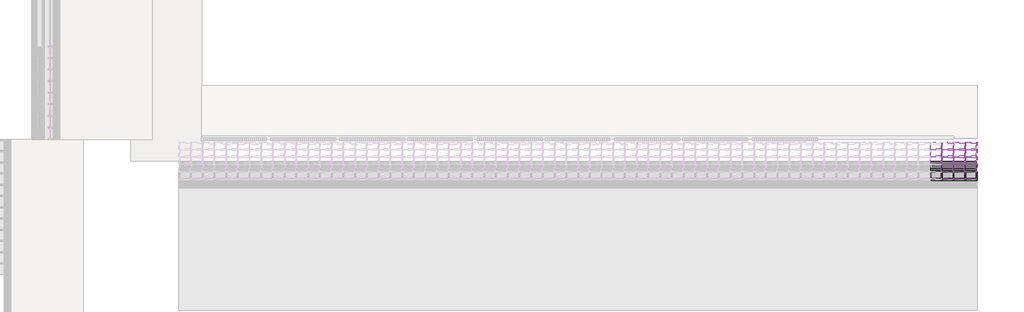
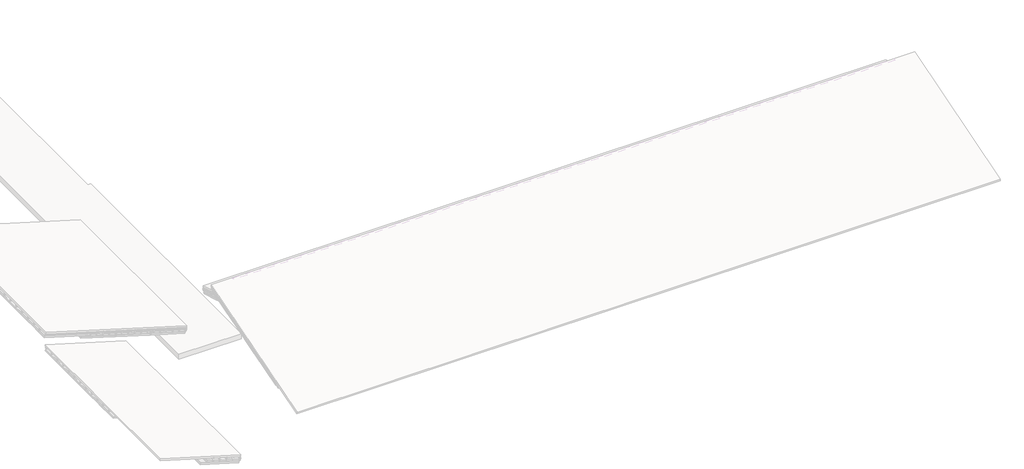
# One storey, part 54 of 57: 80 members, 40 plates.
"""IFC4 building model written with IfcOpenShell, lengths in millimetres."""

from ifc_helpers import new_model, si_unit, origin, place, context, project, spatial, transform, mapped, element, save
from components import rectangular_mullion_4c4137b9, rectangular_mullion_d5690023, rectangular_mullion_59984080, rectangular_mullion_2d2423ea, rectangular_mullion_3ac3718c, rectangular_mullion_70739a68, rectangular_mullion_38d2f0d7, rectangular_mullion_b426adaa, rectangular_mullion_caibro_df98490b, rectangular_mullion_caibro_e4384bba, rectangular_mullion_caibro_7d910be2, rectangular_mullion_caibro_0993a3cf, rectangular_mullion_caibro_9bd7bc61, rectangular_mullion_caibro_1dc24f21, rectangular_mullion_caibro_75ce8668, rectangular_mullion_caibro_650698a1, empty_system_panel_vazio_178faf58, empty_system_panel_vazio_2c78850d, empty_system_panel_vazio_0a59da35

model = new_model("IFC4")

# Units and contexts
model_context = context("Model", 3, world=origin())
ifc_project = project(units=[si_unit("LENGTHUNIT", "METRE", prefix="MILLI")], contexts=[model_context])

# Site, building, storey
site = spatial("IfcSite", under=ifc_project)
building = spatial("IfcBuilding", under=site)
storey = spatial("IfcBuildingStorey", under=building, Name="Nível 2", Elevation=4100.0)

# Members
placement = place(None, origin())
rectangular_mullion_shape = rectangular_mullion_4c4137b9(model_context)
element("IfcMember", 1, ObjectType="Rectangular Mullion : Ripa", at=placement, inside=storey, context=model_context, shape_type="MappedRepresentation", body=[
    mapped(rectangular_mullion_shape, transform((40560.2398198, 15566.1284427, 5819.8877114), x_axis=(0.0, 0.9578262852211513, 0.2873478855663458), y_axis=(0.0, 0.2873478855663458, -0.9578262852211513), z_axis=(-1.0, 0.0, 0.0))),
])
element("IfcMember", 2, ObjectType="Rectangular Mullion : Ripa", at=placement, inside=storey, context=model_context, shape_type="MappedRepresentation", body=[
    mapped(rectangular_mullion_shape, transform((41157.2945762, 15566.1284427, 5819.8877114), x_axis=(0.0, 0.9578262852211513, 0.2873478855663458), y_axis=(0.0, 0.2873478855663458, -0.9578262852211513), z_axis=(-1.0, 0.0, 0.0))),
])
rectangular_mullion_2_shape = rectangular_mullion_d5690023(model_context)
element("IfcMember", 3, ObjectType="Rectangular Mullion : Ripa", at=placement, inside=storey, context=model_context, shape_type="MappedRepresentation", body=[
    mapped(rectangular_mullion_2_shape, transform((41754.3493326, 15566.1284427, 5819.8877114), x_axis=(0.0, 0.9578262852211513, 0.2873478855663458), y_axis=(0.0, 0.2873478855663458, -0.9578262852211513), z_axis=(-1.0, 0.0, 0.0))),
])
rectangular_mullion_3_shape = rectangular_mullion_59984080(model_context)
element("IfcMember", 4, ObjectType="Rectangular Mullion : Ripa", at=placement, inside=storey, context=model_context, shape_type="MappedRepresentation", body=[
    mapped(rectangular_mullion_3_shape, transform((41182.2945762, 12234.5331147, 4820.409113), x_axis=(0.0, 0.9578262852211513, 0.2873478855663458), y_axis=(0.0, 0.2873478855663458, -0.9578262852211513), z_axis=(-1.0, 0.0, 0.0))),
])
element("IfcMember", 5, ObjectType="Rectangular Mullion : Ripa", at=placement, inside=storey, context=model_context, shape_type="MappedRepresentation", body=[
    mapped(rectangular_mullion_3_shape, transform((41779.3493326, 12234.5331147, 4820.409113), x_axis=(0.0, 0.9578262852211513, 0.2873478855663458), y_axis=(0.0, 0.2873478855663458, -0.9578262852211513), z_axis=(-1.0, 0.0, 0.0))),
])
element("IfcMember", 6, ObjectType="Rectangular Mullion : Ripa", at=placement, inside=storey, context=model_context, shape_type="MappedRepresentation", body=[
    mapped(rectangular_mullion_3_shape, transform((41182.2945762, 12604.7103734, 4931.4622906), x_axis=(0.0, 0.9578262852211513, 0.2873478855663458), y_axis=(0.0, 0.2873478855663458, -0.9578262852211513), z_axis=(-1.0, 0.0, 0.0))),
])
element("IfcMember", 7, ObjectType="Rectangular Mullion : Ripa", at=placement, inside=storey, context=model_context, shape_type="MappedRepresentation", body=[
    mapped(rectangular_mullion_3_shape, transform((41779.3493326, 12604.7103734, 4931.4622906), x_axis=(0.0, 0.9578262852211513, 0.2873478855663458), y_axis=(0.0, 0.2873478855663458, -0.9578262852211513), z_axis=(-1.0, 0.0, 0.0))),
])
element("IfcMember", 8, ObjectType="Rectangular Mullion : Ripa", at=placement, inside=storey, context=model_context, shape_type="MappedRepresentation", body=[
    mapped(rectangular_mullion_3_shape, transform((41182.2945762, 12974.8876321, 5042.5154682), x_axis=(0.0, 0.9578262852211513, 0.2873478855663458), y_axis=(0.0, 0.2873478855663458, -0.9578262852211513), z_axis=(-1.0, 0.0, 0.0))),
])
element("IfcMember", 9, ObjectType="Rectangular Mullion : Ripa", at=placement, inside=storey, context=model_context, shape_type="MappedRepresentation", body=[
    mapped(rectangular_mullion_3_shape, transform((41779.3493326, 12974.8876321, 5042.5154682), x_axis=(0.0, 0.9578262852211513, 0.2873478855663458), y_axis=(0.0, 0.2873478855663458, -0.9578262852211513), z_axis=(-1.0, 0.0, 0.0))),
])
element("IfcMember", 10, ObjectType="Rectangular Mullion : Ripa", at=placement, inside=storey, context=model_context, shape_type="MappedRepresentation", body=[
    mapped(rectangular_mullion_3_shape, transform((40585.2398198, 13345.0648907, 5153.5686458), x_axis=(0.0, 0.9578262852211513, 0.2873478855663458), y_axis=(0.0, 0.2873478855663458, -0.9578262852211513), z_axis=(-1.0, 0.0, 0.0))),
])
element("IfcMember", 11, ObjectType="Rectangular Mullion : Ripa", at=placement, inside=storey, context=model_context, shape_type="MappedRepresentation", body=[
    mapped(rectangular_mullion_3_shape, transform((41182.2945762, 13345.0648907, 5153.5686458), x_axis=(0.0, 0.9578262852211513, 0.2873478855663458), y_axis=(0.0, 0.2873478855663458, -0.9578262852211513), z_axis=(-1.0, 0.0, 0.0))),
])
element("IfcMember", 12, ObjectType="Rectangular Mullion : Ripa", at=placement, inside=storey, context=model_context, shape_type="MappedRepresentation", body=[
    mapped(rectangular_mullion_3_shape, transform((41779.3493326, 13345.0648907, 5153.5686458), x_axis=(0.0, 0.9578262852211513, 0.2873478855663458), y_axis=(0.0, 0.2873478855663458, -0.9578262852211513), z_axis=(-1.0, 0.0, 0.0))),
])
element("IfcMember", 13, ObjectType="Rectangular Mullion : Ripa", at=placement, inside=storey, context=model_context, shape_type="MappedRepresentation", body=[
    mapped(rectangular_mullion_3_shape, transform((40585.2398198, 13715.2421494, 5264.6218234), x_axis=(0.0, 0.9578262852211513, 0.2873478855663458), y_axis=(0.0, 0.2873478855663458, -0.9578262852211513), z_axis=(-1.0, 0.0, 0.0))),
])
element("IfcMember", 14, ObjectType="Rectangular Mullion : Ripa", at=placement, inside=storey, context=model_context, shape_type="MappedRepresentation", body=[
    mapped(rectangular_mullion_3_shape, transform((41182.2945762, 13715.2421494, 5264.6218234), x_axis=(0.0, 0.9578262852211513, 0.2873478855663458), y_axis=(0.0, 0.2873478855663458, -0.9578262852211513), z_axis=(-1.0, 0.0, 0.0))),
])
element("IfcMember", 15, ObjectType="Rectangular Mullion : Ripa", at=placement, inside=storey, context=model_context, shape_type="MappedRepresentation", body=[
    mapped(rectangular_mullion_3_shape, transform((41779.3493326, 13715.2421494, 5264.6218234), x_axis=(0.0, 0.9578262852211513, 0.2873478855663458), y_axis=(0.0, 0.2873478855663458, -0.9578262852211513), z_axis=(-1.0, 0.0, 0.0))),
])
element("IfcMember", 16, ObjectType="Rectangular Mullion : Ripa", at=placement, inside=storey, context=model_context, shape_type="MappedRepresentation", body=[
    mapped(rectangular_mullion_3_shape, transform((40585.2398198, 14085.4194081, 5375.675001), x_axis=(0.0, 0.9578262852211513, 0.2873478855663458), y_axis=(0.0, 0.2873478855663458, -0.9578262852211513), z_axis=(-1.0, 0.0, 0.0))),
])
element("IfcMember", 17, ObjectType="Rectangular Mullion : Ripa", at=placement, inside=storey, context=model_context, shape_type="MappedRepresentation", body=[
    mapped(rectangular_mullion_3_shape, transform((41182.2945762, 14085.4194081, 5375.675001), x_axis=(0.0, 0.9578262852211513, 0.2873478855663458), y_axis=(0.0, 0.2873478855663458, -0.9578262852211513), z_axis=(-1.0, 0.0, 0.0))),
])
element("IfcMember", 18, ObjectType="Rectangular Mullion : Ripa", at=placement, inside=storey, context=model_context, shape_type="MappedRepresentation", body=[
    mapped(rectangular_mullion_3_shape, transform((41779.3493326, 14085.4194081, 5375.675001), x_axis=(0.0, 0.9578262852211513, 0.2873478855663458), y_axis=(0.0, 0.2873478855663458, -0.9578262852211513), z_axis=(-1.0, 0.0, 0.0))),
])
element("IfcMember", 19, ObjectType="Rectangular Mullion : Ripa", at=placement, inside=storey, context=model_context, shape_type="MappedRepresentation", body=[
    mapped(rectangular_mullion_3_shape, transform((40585.2398198, 14455.5966667, 5486.7281786), x_axis=(0.0, 0.9578262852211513, 0.2873478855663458), y_axis=(0.0, 0.2873478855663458, -0.9578262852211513), z_axis=(-1.0, 0.0, 0.0))),
])
element("IfcMember", 20, ObjectType="Rectangular Mullion : Ripa", at=placement, inside=storey, context=model_context, shape_type="MappedRepresentation", body=[
    mapped(rectangular_mullion_3_shape, transform((41182.2945762, 14455.5966667, 5486.7281786), x_axis=(0.0, 0.9578262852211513, 0.2873478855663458), y_axis=(0.0, 0.2873478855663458, -0.9578262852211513), z_axis=(-1.0, 0.0, 0.0))),
])
element("IfcMember", 21, ObjectType="Rectangular Mullion : Ripa", at=placement, inside=storey, context=model_context, shape_type="MappedRepresentation", body=[
    mapped(rectangular_mullion_3_shape, transform((41779.3493326, 14455.5966667, 5486.7281786), x_axis=(0.0, 0.9578262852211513, 0.2873478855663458), y_axis=(0.0, 0.2873478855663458, -0.9578262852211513), z_axis=(-1.0, 0.0, 0.0))),
])
element("IfcMember", 22, ObjectType="Rectangular Mullion : Ripa", at=placement, inside=storey, context=model_context, shape_type="MappedRepresentation", body=[
    mapped(rectangular_mullion_3_shape, transform((40585.2398198, 14825.7739254, 5597.7813562), x_axis=(0.0, 0.9578262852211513, 0.2873478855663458), y_axis=(0.0, 0.2873478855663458, -0.9578262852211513), z_axis=(-1.0, 0.0, 0.0))),
])
element("IfcMember", 23, ObjectType="Rectangular Mullion : Ripa", at=placement, inside=storey, context=model_context, shape_type="MappedRepresentation", body=[
    mapped(rectangular_mullion_3_shape, transform((41182.2945762, 14825.7739254, 5597.7813562), x_axis=(0.0, 0.9578262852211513, 0.2873478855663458), y_axis=(0.0, 0.2873478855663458, -0.9578262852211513), z_axis=(-1.0, 0.0, 0.0))),
])
element("IfcMember", 24, ObjectType="Rectangular Mullion : Ripa", at=placement, inside=storey, context=model_context, shape_type="MappedRepresentation", body=[
    mapped(rectangular_mullion_3_shape, transform((41779.3493326, 14825.7739254, 5597.7813562), x_axis=(0.0, 0.9578262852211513, 0.2873478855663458), y_axis=(0.0, 0.2873478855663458, -0.9578262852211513), z_axis=(-1.0, 0.0, 0.0))),
])
element("IfcMember", 25, ObjectType="Rectangular Mullion : Ripa", at=placement, inside=storey, context=model_context, shape_type="MappedRepresentation", body=[
    mapped(rectangular_mullion_3_shape, transform((40585.2398198, 15195.9511841, 5708.8345338), x_axis=(0.0, 0.9578262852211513, 0.2873478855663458), y_axis=(0.0, 0.2873478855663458, -0.9578262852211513), z_axis=(-1.0, 0.0, 0.0))),
])
element("IfcMember", 26, ObjectType="Rectangular Mullion : Ripa", at=placement, inside=storey, context=model_context, shape_type="MappedRepresentation", body=[
    mapped(rectangular_mullion_3_shape, transform((41182.2945762, 15195.9511841, 5708.8345338), x_axis=(0.0, 0.9578262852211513, 0.2873478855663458), y_axis=(0.0, 0.2873478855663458, -0.9578262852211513), z_axis=(-1.0, 0.0, 0.0))),
])
element("IfcMember", 27, ObjectType="Rectangular Mullion : Ripa", at=placement, inside=storey, context=model_context, shape_type="MappedRepresentation", body=[
    mapped(rectangular_mullion_3_shape, transform((41779.3493326, 15195.9511841, 5708.8345338), x_axis=(0.0, 0.9578262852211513, 0.2873478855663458), y_axis=(0.0, 0.2873478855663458, -0.9578262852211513), z_axis=(-1.0, 0.0, 0.0))),
])
rectangular_mullion_4_shape = rectangular_mullion_2d2423ea(model_context)
element("IfcMember", 28, ObjectType="Rectangular Mullion : Terça", at=placement, inside=storey, context=model_context, shape_type="MappedRepresentation", body=[
    mapped(rectangular_mullion_4_shape, transform((40585.2398198, 13411.2689826, 5110.7880343), x_axis=(0.0, 0.9578262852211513, 0.2873478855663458), y_axis=(0.0, 0.2873478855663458, -0.9578262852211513), z_axis=(-1.0, 0.0, 0.0))),
])
element("IfcMember", 29, ObjectType="Rectangular Mullion : Terça", at=placement, inside=storey, context=model_context, shape_type="MappedRepresentation", body=[
    mapped(rectangular_mullion_4_shape, transform((41182.2945762, 13411.2689826, 5110.7880343), x_axis=(0.0, 0.9578262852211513, 0.2873478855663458), y_axis=(0.0, 0.2873478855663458, -0.9578262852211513), z_axis=(-1.0, 0.0, 0.0))),
])
element("IfcMember", 30, ObjectType="Rectangular Mullion : Terça", at=placement, inside=storey, context=model_context, shape_type="MappedRepresentation", body=[
    mapped(rectangular_mullion_4_shape, transform((41779.3493326, 13411.2689826, 5110.7880343), x_axis=(0.0, 0.9578262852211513, 0.2873478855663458), y_axis=(0.0, 0.2873478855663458, -0.9578262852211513), z_axis=(-1.0, 0.0, 0.0))),
])
rectangular_mullion_5_shape = rectangular_mullion_3ac3718c(model_context)
element("IfcMember", 31, ObjectType="Rectangular Mullion : Terça", at=placement, inside=storey, context=model_context, shape_type="MappedRepresentation", body=[
    mapped(rectangular_mullion_5_shape, transform((40560.2398198, 15566.1284427, 5757.2458723), x_axis=(0.0, 0.9578262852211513, 0.2873478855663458), y_axis=(0.0, 0.2873478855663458, -0.9578262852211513), z_axis=(-1.0, 0.0, 0.0))),
])
element("IfcMember", 32, ObjectType="Rectangular Mullion : Terça", at=placement, inside=storey, context=model_context, shape_type="MappedRepresentation", body=[
    mapped(rectangular_mullion_5_shape, transform((41157.2945762, 15566.1284427, 5757.2458723), x_axis=(0.0, 0.9578262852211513, 0.2873478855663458), y_axis=(0.0, 0.2873478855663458, -0.9578262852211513), z_axis=(-1.0, 0.0, 0.0))),
])
rectangular_mullion_6_shape = rectangular_mullion_70739a68(model_context)
element("IfcMember", 33, ObjectType="Rectangular Mullion : Terça", at=placement, inside=storey, context=model_context, shape_type="MappedRepresentation", body=[
    mapped(rectangular_mullion_6_shape, transform((41754.3493326, 15566.1284427, 5757.2458723), x_axis=(0.0, 0.9578262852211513, 0.2873478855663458), y_axis=(0.0, 0.2873478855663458, -0.9578262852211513), z_axis=(-1.0, 0.0, 0.0))),
])
rectangular_mullion_7_shape = rectangular_mullion_38d2f0d7(model_context)
element("IfcMember", 34, ObjectType="Rectangular Mullion : Ripa", at=placement, inside=storey, context=model_context, shape_type="MappedRepresentation", body=[
    mapped(rectangular_mullion_7_shape, transform((42376.5296631, 15772.0058221, 4410.7541277), x_axis=(0.0, -0.9578262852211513, 0.2873478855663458), y_axis=(0.0, -0.2873478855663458, -0.9578262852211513), z_axis=(1.0, 0.0, 0.0))),
])
rectangular_mullion_8_shape = rectangular_mullion_b426adaa(model_context)
element("IfcMember", 35, ObjectType="Rectangular Mullion : Terça", at=placement, inside=storey, context=model_context, shape_type="MappedRepresentation", body=[
    mapped(rectangular_mullion_8_shape, transform((42376.5296631, 15772.0058221, 4288.3581609), x_axis=(0.0, -0.9578262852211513, 0.2873478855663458), y_axis=(0.0, -0.2873478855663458, -0.9578262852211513), z_axis=(1.0, 0.0, 0.0))),
])
rectangular_mullion_caibro_shape = rectangular_mullion_caibro_df98490b(model_context)
element("IfcMember", 36, ObjectType="Rectangular Mullion : Caibro", at=placement, inside=storey, context=model_context, shape_type="MappedRepresentation", body=[
    mapped(rectangular_mullion_caibro_shape, transform((40560.2398198, 15518.2371285, 5805.5203171), x_axis=(1.0, 0.0, 0.0), y_axis=(0.0, 0.28734788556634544, -0.9578262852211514), z_axis=(0.0, 0.9578262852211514, 0.28734788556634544))),
])
element("IfcMember", 37, ObjectType="Rectangular Mullion : Caibro", at=placement, inside=storey, context=model_context, shape_type="MappedRepresentation", body=[
    mapped(rectangular_mullion_caibro_shape, transform((41157.2945762, 15518.2371285, 5805.5203171), x_axis=(1.0, 0.0, 0.0), y_axis=(0.0, 0.28734788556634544, -0.9578262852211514), z_axis=(0.0, 0.9578262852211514, 0.28734788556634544))),
])
element("IfcMember", 38, ObjectType="Rectangular Mullion : Caibro", at=placement, inside=storey, context=model_context, shape_type="MappedRepresentation", body=[
    mapped(rectangular_mullion_caibro_shape, transform((41754.3493326, 15518.2371285, 5805.5203171), x_axis=(1.0, 0.0, 0.0), y_axis=(0.0, 0.28734788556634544, -0.9578262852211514), z_axis=(0.0, 0.9578262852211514, 0.28734788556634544))),
])
rectangular_mullion_caibro_2_shape = rectangular_mullion_caibro_e4384bba(model_context)
element("IfcMember", 39, ObjectType="Rectangular Mullion : Caibro", at=placement, inside=storey, context=model_context, shape_type="MappedRepresentation", body=[
    mapped(rectangular_mullion_caibro_2_shape, transform((40560.2398198, 13345.0648907, 5153.5686458), x_axis=(1.0, 0.0, 0.0), y_axis=(0.0, 0.28734788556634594, -0.9578262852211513), z_axis=(0.0, 0.9578262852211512, 0.2873478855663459))),
])
element("IfcMember", 40, ObjectType="Rectangular Mullion : Caibro", at=placement, inside=storey, context=model_context, shape_type="MappedRepresentation", body=[
    mapped(rectangular_mullion_caibro_2_shape, transform((40560.2398198, 13715.2421494, 5264.6218234), x_axis=(1.0, 0.0, 0.0), y_axis=(0.0, 0.28734788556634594, -0.9578262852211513), z_axis=(0.0, 0.9578262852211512, 0.2873478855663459))),
])
element("IfcMember", 41, ObjectType="Rectangular Mullion : Caibro", at=placement, inside=storey, context=model_context, shape_type="MappedRepresentation", body=[
    mapped(rectangular_mullion_caibro_2_shape, transform((40560.2398198, 14085.4194081, 5375.675001), x_axis=(1.0, 0.0, 0.0), y_axis=(0.0, 0.28734788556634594, -0.9578262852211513), z_axis=(0.0, 0.9578262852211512, 0.2873478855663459))),
])
element("IfcMember", 42, ObjectType="Rectangular Mullion : Caibro", at=placement, inside=storey, context=model_context, shape_type="MappedRepresentation", body=[
    mapped(rectangular_mullion_caibro_2_shape, transform((40560.2398198, 14455.5966667, 5486.7281786), x_axis=(1.0, 0.0, 0.0), y_axis=(0.0, 0.2873478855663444, -0.9578262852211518), z_axis=(0.0, 0.9578262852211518, 0.2873478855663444))),
])
element("IfcMember", 43, ObjectType="Rectangular Mullion : Caibro", at=placement, inside=storey, context=model_context, shape_type="MappedRepresentation", body=[
    mapped(rectangular_mullion_caibro_2_shape, transform((40560.2398198, 14825.7739254, 5597.7813562), x_axis=(1.0, 0.0, 0.0), y_axis=(0.0, 0.287347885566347, -0.9578262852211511), z_axis=(0.0, 0.9578262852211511, 0.287347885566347))),
])
element("IfcMember", 44, ObjectType="Rectangular Mullion : Caibro", at=placement, inside=storey, context=model_context, shape_type="MappedRepresentation", body=[
    mapped(rectangular_mullion_caibro_2_shape, transform((40560.2398198, 15195.9511841, 5708.8345338), x_axis=(1.0, 0.0, 0.0), y_axis=(0.0, 0.28734788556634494, -0.9578262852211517), z_axis=(0.0, 0.9578262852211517, 0.28734788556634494))),
])
element("IfcMember", 45, ObjectType="Rectangular Mullion : Caibro", at=placement, inside=storey, context=model_context, shape_type="MappedRepresentation", body=[
    mapped(rectangular_mullion_caibro_2_shape, transform((41157.2945762, 13345.0648907, 5153.5686458), x_axis=(1.0, 0.0, 0.0), y_axis=(0.0, 0.28734788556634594, -0.9578262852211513), z_axis=(0.0, 0.9578262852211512, 0.2873478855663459))),
])
element("IfcMember", 46, ObjectType="Rectangular Mullion : Caibro", at=placement, inside=storey, context=model_context, shape_type="MappedRepresentation", body=[
    mapped(rectangular_mullion_caibro_2_shape, transform((41157.2945762, 13715.2421494, 5264.6218234), x_axis=(1.0, 0.0, 0.0), y_axis=(0.0, 0.28734788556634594, -0.9578262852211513), z_axis=(0.0, 0.9578262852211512, 0.2873478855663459))),
])
element("IfcMember", 47, ObjectType="Rectangular Mullion : Caibro", at=placement, inside=storey, context=model_context, shape_type="MappedRepresentation", body=[
    mapped(rectangular_mullion_caibro_2_shape, transform((41157.2945762, 14085.4194081, 5375.675001), x_axis=(1.0, 0.0, 0.0), y_axis=(0.0, 0.28734788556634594, -0.9578262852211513), z_axis=(0.0, 0.9578262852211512, 0.2873478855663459))),
])
element("IfcMember", 48, ObjectType="Rectangular Mullion : Caibro", at=placement, inside=storey, context=model_context, shape_type="MappedRepresentation", body=[
    mapped(rectangular_mullion_caibro_2_shape, transform((41157.2945762, 14455.5966667, 5486.7281786), x_axis=(1.0, 0.0, 0.0), y_axis=(0.0, 0.2873478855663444, -0.9578262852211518), z_axis=(0.0, 0.9578262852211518, 0.2873478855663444))),
])
element("IfcMember", 49, ObjectType="Rectangular Mullion : Caibro", at=placement, inside=storey, context=model_context, shape_type="MappedRepresentation", body=[
    mapped(rectangular_mullion_caibro_2_shape, transform((41157.2945762, 14825.7739254, 5597.7813562), x_axis=(1.0, 0.0, 0.0), y_axis=(0.0, 0.287347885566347, -0.9578262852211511), z_axis=(0.0, 0.9578262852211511, 0.287347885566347))),
])
element("IfcMember", 50, ObjectType="Rectangular Mullion : Caibro", at=placement, inside=storey, context=model_context, shape_type="MappedRepresentation", body=[
    mapped(rectangular_mullion_caibro_2_shape, transform((41157.2945762, 15195.9511841, 5708.8345338), x_axis=(1.0, 0.0, 0.0), y_axis=(0.0, 0.28734788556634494, -0.9578262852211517), z_axis=(0.0, 0.9578262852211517, 0.28734788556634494))),
])
element("IfcMember", 51, ObjectType="Rectangular Mullion : Caibro", at=placement, inside=storey, context=model_context, shape_type="MappedRepresentation", body=[
    mapped(rectangular_mullion_caibro_2_shape, transform((41754.3493326, 12234.5331147, 4820.409113), x_axis=(1.0, 0.0, 0.0), y_axis=(0.0, 0.2873478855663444, -0.9578262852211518), z_axis=(0.0, 0.9578262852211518, 0.2873478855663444))),
])
element("IfcMember", 52, ObjectType="Rectangular Mullion : Caibro", at=placement, inside=storey, context=model_context, shape_type="MappedRepresentation", body=[
    mapped(rectangular_mullion_caibro_2_shape, transform((41754.3493326, 12604.7103734, 4931.4622906), x_axis=(1.0, 0.0, 0.0), y_axis=(0.0, 0.2873478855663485, -0.9578262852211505), z_axis=(0.0, 0.9578262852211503, 0.28734788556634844))),
])
element("IfcMember", 53, ObjectType="Rectangular Mullion : Caibro", at=placement, inside=storey, context=model_context, shape_type="MappedRepresentation", body=[
    mapped(rectangular_mullion_caibro_2_shape, transform((41754.3493326, 12974.8876321, 5042.5154682), x_axis=(1.0, 0.0, 0.0), y_axis=(0.0, 0.2873478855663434, -0.957826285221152), z_axis=(0.0, 0.957826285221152, 0.2873478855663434))),
])
element("IfcMember", 54, ObjectType="Rectangular Mullion : Caibro", at=placement, inside=storey, context=model_context, shape_type="MappedRepresentation", body=[
    mapped(rectangular_mullion_caibro_2_shape, transform((41754.3493326, 13345.0648907, 5153.5686458), x_axis=(1.0, 0.0, 0.0), y_axis=(0.0, 0.28734788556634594, -0.9578262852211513), z_axis=(0.0, 0.9578262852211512, 0.2873478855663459))),
])
element("IfcMember", 55, ObjectType="Rectangular Mullion : Caibro", at=placement, inside=storey, context=model_context, shape_type="MappedRepresentation", body=[
    mapped(rectangular_mullion_caibro_2_shape, transform((41754.3493326, 13715.2421494, 5264.6218234), x_axis=(1.0, 0.0, 0.0), y_axis=(0.0, 0.28734788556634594, -0.9578262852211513), z_axis=(0.0, 0.9578262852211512, 0.2873478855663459))),
])
element("IfcMember", 56, ObjectType="Rectangular Mullion : Caibro", at=placement, inside=storey, context=model_context, shape_type="MappedRepresentation", body=[
    mapped(rectangular_mullion_caibro_2_shape, transform((41754.3493326, 14085.4194081, 5375.675001), x_axis=(1.0, 0.0, 0.0), y_axis=(0.0, 0.28734788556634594, -0.9578262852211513), z_axis=(0.0, 0.9578262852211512, 0.2873478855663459))),
])
element("IfcMember", 57, ObjectType="Rectangular Mullion : Caibro", at=placement, inside=storey, context=model_context, shape_type="MappedRepresentation", body=[
    mapped(rectangular_mullion_caibro_2_shape, transform((41754.3493326, 14455.5966667, 5486.7281786), x_axis=(1.0, 0.0, 0.0), y_axis=(0.0, 0.2873478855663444, -0.9578262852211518), z_axis=(0.0, 0.9578262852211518, 0.2873478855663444))),
])
element("IfcMember", 58, ObjectType="Rectangular Mullion : Caibro", at=placement, inside=storey, context=model_context, shape_type="MappedRepresentation", body=[
    mapped(rectangular_mullion_caibro_2_shape, transform((41754.3493326, 14825.7739254, 5597.7813562), x_axis=(1.0, 0.0, 0.0), y_axis=(0.0, 0.287347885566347, -0.9578262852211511), z_axis=(0.0, 0.9578262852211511, 0.287347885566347))),
])
element("IfcMember", 59, ObjectType="Rectangular Mullion : Caibro", at=placement, inside=storey, context=model_context, shape_type="MappedRepresentation", body=[
    mapped(rectangular_mullion_caibro_2_shape, transform((41754.3493326, 15195.9511841, 5708.8345338), x_axis=(1.0, 0.0, 0.0), y_axis=(0.0, 0.28734788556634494, -0.9578262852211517), z_axis=(0.0, 0.9578262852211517, 0.28734788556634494))),
])
rectangular_mullion_caibro_3_shape = rectangular_mullion_caibro_7d910be2(model_context)
element("IfcMember", 60, ObjectType="Rectangular Mullion : Caibro", at=placement, inside=storey, context=model_context, shape_type="MappedRepresentation", body=[
    mapped(rectangular_mullion_caibro_3_shape, transform((42376.4040894, 15566.1284427, 5819.8877114), x_axis=(1.0, 0.0, 0.0), y_axis=(0.0, 0.28734788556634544, -0.9578262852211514), z_axis=(0.0, 0.9578262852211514, 0.28734788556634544))),
])
element("IfcMember", 61, ObjectType="Rectangular Mullion : Caibro", at=placement, inside=storey, context=model_context, shape_type="MappedRepresentation", body=[
    mapped(rectangular_mullion_caibro_3_shape, transform((42376.4040894, 12234.5331147, 4820.409113), x_axis=(1.0, 0.0, 0.0), y_axis=(0.0, 0.2873478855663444, -0.9578262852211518), z_axis=(0.0, 0.9578262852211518, 0.2873478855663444))),
])
element("IfcMember", 62, ObjectType="Rectangular Mullion : Caibro", at=placement, inside=storey, context=model_context, shape_type="MappedRepresentation", body=[
    mapped(rectangular_mullion_caibro_3_shape, transform((42376.4040894, 12604.7103734, 4931.4622906), x_axis=(1.0, 0.0, 0.0), y_axis=(0.0, 0.2873478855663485, -0.9578262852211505), z_axis=(0.0, 0.9578262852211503, 0.28734788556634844))),
])
element("IfcMember", 63, ObjectType="Rectangular Mullion : Caibro", at=placement, inside=storey, context=model_context, shape_type="MappedRepresentation", body=[
    mapped(rectangular_mullion_caibro_3_shape, transform((42376.4040894, 12974.8876321, 5042.5154682), x_axis=(1.0, 0.0, 0.0), y_axis=(0.0, 0.2873478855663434, -0.957826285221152), z_axis=(0.0, 0.957826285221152, 0.2873478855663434))),
])
element("IfcMember", 64, ObjectType="Rectangular Mullion : Caibro", at=placement, inside=storey, context=model_context, shape_type="MappedRepresentation", body=[
    mapped(rectangular_mullion_caibro_3_shape, transform((42376.4040894, 13345.0648907, 5153.5686458), x_axis=(1.0, 0.0, 0.0), y_axis=(0.0, 0.28734788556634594, -0.9578262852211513), z_axis=(0.0, 0.9578262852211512, 0.2873478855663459))),
])
element("IfcMember", 65, ObjectType="Rectangular Mullion : Caibro", at=placement, inside=storey, context=model_context, shape_type="MappedRepresentation", body=[
    mapped(rectangular_mullion_caibro_3_shape, transform((42376.4040894, 13715.2421494, 5264.6218234), x_axis=(1.0, 0.0, 0.0), y_axis=(0.0, 0.28734788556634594, -0.9578262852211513), z_axis=(0.0, 0.9578262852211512, 0.2873478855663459))),
])
element("IfcMember", 66, ObjectType="Rectangular Mullion : Caibro", at=placement, inside=storey, context=model_context, shape_type="MappedRepresentation", body=[
    mapped(rectangular_mullion_caibro_3_shape, transform((42376.4040894, 14085.4194081, 5375.675001), x_axis=(1.0, 0.0, 0.0), y_axis=(0.0, 0.28734788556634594, -0.9578262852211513), z_axis=(0.0, 0.9578262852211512, 0.2873478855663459))),
])
element("IfcMember", 67, ObjectType="Rectangular Mullion : Caibro", at=placement, inside=storey, context=model_context, shape_type="MappedRepresentation", body=[
    mapped(rectangular_mullion_caibro_3_shape, transform((42376.4040894, 14455.5966667, 5486.7281786), x_axis=(1.0, 0.0, 0.0), y_axis=(0.0, 0.2873478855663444, -0.9578262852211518), z_axis=(0.0, 0.9578262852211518, 0.2873478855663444))),
])
element("IfcMember", 68, ObjectType="Rectangular Mullion : Caibro", at=placement, inside=storey, context=model_context, shape_type="MappedRepresentation", body=[
    mapped(rectangular_mullion_caibro_3_shape, transform((42376.4040894, 14825.7739254, 5597.7813562), x_axis=(1.0, 0.0, 0.0), y_axis=(0.0, 0.287347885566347, -0.9578262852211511), z_axis=(0.0, 0.9578262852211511, 0.287347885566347))),
])
element("IfcMember", 69, ObjectType="Rectangular Mullion : Caibro", at=placement, inside=storey, context=model_context, shape_type="MappedRepresentation", body=[
    mapped(rectangular_mullion_caibro_3_shape, transform((42376.4040894, 15195.9511841, 5708.8345338), x_axis=(1.0, 0.0, 0.0), y_axis=(0.0, 0.28734788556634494, -0.9578262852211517), z_axis=(0.0, 0.9578262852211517, 0.28734788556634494))),
])
rectangular_mullion_caibro_4_shape = rectangular_mullion_caibro_0993a3cf(model_context)
element("IfcMember", 70, ObjectType="Rectangular Mullion : Caibro", at=placement, inside=storey, context=model_context, shape_type="MappedRepresentation", body=[
    mapped(rectangular_mullion_caibro_4_shape, transform((40560.2398198, 15508.6588656, 5740.0049992), x_axis=(1.0, 0.0, 0.0), y_axis=(0.0, 0.28734788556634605, -0.9578262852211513), z_axis=(0.0, 0.9578262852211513, 0.28734788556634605))),
])
element("IfcMember", 71, ObjectType="Rectangular Mullion : Caibro", at=placement, inside=storey, context=model_context, shape_type="MappedRepresentation", body=[
    mapped(rectangular_mullion_caibro_4_shape, transform((41157.2945762, 15508.6588656, 5740.0049992), x_axis=(1.0, 0.0, 0.0), y_axis=(0.0, 0.28734788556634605, -0.9578262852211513), z_axis=(0.0, 0.9578262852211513, 0.28734788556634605))),
])
element("IfcMember", 72, ObjectType="Rectangular Mullion : Caibro", at=placement, inside=storey, context=model_context, shape_type="MappedRepresentation", body=[
    mapped(rectangular_mullion_caibro_4_shape, transform((41754.3493326, 15508.6588656, 5740.0049992), x_axis=(1.0, 0.0, 0.0), y_axis=(0.0, 0.28734788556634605, -0.9578262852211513), z_axis=(0.0, 0.9578262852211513, 0.28734788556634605))),
])
rectangular_mullion_caibro_5_shape = rectangular_mullion_caibro_9bd7bc61(model_context)
element("IfcMember", 73, ObjectType="Rectangular Mullion : Caibro", at=placement, inside=storey, context=model_context, shape_type="MappedRepresentation", body=[
    mapped(rectangular_mullion_caibro_5_shape, transform((40560.2398198, 13411.2689826, 5110.7880343), x_axis=(1.0, 0.0, 0.0), y_axis=(0.0, 0.2873478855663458, -0.9578262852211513), z_axis=(0.0, 0.9578262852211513, 0.2873478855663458))),
])
element("IfcMember", 74, ObjectType="Rectangular Mullion : Caibro", at=placement, inside=storey, context=model_context, shape_type="MappedRepresentation", body=[
    mapped(rectangular_mullion_caibro_5_shape, transform((41157.2945762, 13411.2689826, 5110.7880343), x_axis=(1.0, 0.0, 0.0), y_axis=(0.0, 0.2873478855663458, -0.9578262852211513), z_axis=(0.0, 0.9578262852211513, 0.2873478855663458))),
])
element("IfcMember", 75, ObjectType="Rectangular Mullion : Caibro", at=placement, inside=storey, context=model_context, shape_type="MappedRepresentation", body=[
    mapped(rectangular_mullion_caibro_5_shape, transform((41754.3493326, 13411.2689826, 5110.7880343), x_axis=(1.0, 0.0, 0.0), y_axis=(0.0, 0.2873478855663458, -0.9578262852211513), z_axis=(0.0, 0.9578262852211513, 0.2873478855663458))),
])
rectangular_mullion_caibro_6_shape = rectangular_mullion_caibro_1dc24f21(model_context)
element("IfcMember", 76, ObjectType="Rectangular Mullion : Caibro", at=placement, inside=storey, context=model_context, shape_type="MappedRepresentation", body=[
    mapped(rectangular_mullion_caibro_6_shape, transform((42376.4040894, 15566.1284427, 5757.2458723), x_axis=(1.0, 0.0, 0.0), y_axis=(0.0, 0.28734788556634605, -0.9578262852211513), z_axis=(0.0, 0.9578262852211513, 0.28734788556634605))),
])
rectangular_mullion_caibro_7_shape = rectangular_mullion_caibro_75ce8668(model_context)
element("IfcMember", 77, ObjectType="Rectangular Mullion : Caibro", at=placement, inside=storey, context=model_context, shape_type="MappedRepresentation", body=[
    mapped(rectangular_mullion_caibro_7_shape, transform((42376.4040894, 13411.2689826, 5110.7880343), x_axis=(1.0, 0.0, 0.0), y_axis=(0.0, 0.2873478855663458, -0.9578262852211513), z_axis=(0.0, 0.9578262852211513, 0.2873478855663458))),
])
rectangular_mullion_caibro_8_shape = rectangular_mullion_caibro_650698a1(model_context)
element("IfcMember", 78, ObjectType="Rectangular Mullion : Caibro", at=placement, inside=storey, context=model_context, shape_type="MappedRepresentation", body=[
    mapped(rectangular_mullion_caibro_8_shape, transform((41754.1811611, 15772.0058221, 4410.7541277), x_axis=(-1.0, 0.0, 0.0), y_axis=(0.0, -0.28734788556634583, -0.9578262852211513), z_axis=(0.0, -0.9578262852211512, 0.2873478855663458))),
])
element("IfcMember", 79, ObjectType="Rectangular Mullion : Caibro", at=placement, inside=storey, context=model_context, shape_type="MappedRepresentation", body=[
    mapped(rectangular_mullion_caibro_8_shape, transform((41156.8326594, 15772.0058221, 4410.7541277), x_axis=(-1.0, 0.0, 0.0), y_axis=(0.0, -0.28734788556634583, -0.9578262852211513), z_axis=(0.0, -0.9578262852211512, 0.2873478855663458))),
])
element("IfcMember", 80, ObjectType="Rectangular Mullion : Caibro", at=placement, inside=storey, context=model_context, shape_type="MappedRepresentation", body=[
    mapped(rectangular_mullion_caibro_8_shape, transform((40559.4841578, 15772.0058221, 4410.7541277), x_axis=(-1.0, 0.0, 0.0), y_axis=(0.0, -0.28734788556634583, -0.9578262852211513), z_axis=(0.0, -0.9578262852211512, 0.2873478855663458))),
])

# Plates
empty_system_panel_vazio_shape = empty_system_panel_vazio_178faf58(model_context)
element("IfcPlate", 81, ObjectType="Empty System Panel : Vazio", at=placement, inside=storey, context=model_context, shape_type="MappedRepresentation", body=[
    mapped(empty_system_panel_vazio_shape, transform((42052.876711, 12234.5331147, 4820.409113), x_axis=(1.0, 0.0, 0.0), y_axis=(0.0, 0.2873478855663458, -0.9578262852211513), z_axis=(0.0, 0.9578262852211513, 0.2873478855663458))),
])
element("IfcPlate", 82, ObjectType="Empty System Panel : Vazio", at=placement, inside=storey, context=model_context, shape_type="MappedRepresentation", body=[
    mapped(empty_system_panel_vazio_shape, transform((42052.876711, 12604.7103734, 4931.4622906), x_axis=(1.0, 0.0, 0.0), y_axis=(0.0, 0.2873478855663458, -0.9578262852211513), z_axis=(0.0, 0.9578262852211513, 0.2873478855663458))),
])
element("IfcPlate", 83, ObjectType="Empty System Panel : Vazio", at=placement, inside=storey, context=model_context, shape_type="MappedRepresentation", body=[
    mapped(empty_system_panel_vazio_shape, transform((42052.876711, 12974.8876321, 5042.5154682), x_axis=(1.0, 0.0, 0.0), y_axis=(0.0, 0.2873478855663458, -0.9578262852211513), z_axis=(0.0, 0.9578262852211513, 0.2873478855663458))),
])
element("IfcPlate", 84, ObjectType="Empty System Panel : Vazio", at=placement, inside=storey, context=model_context, shape_type="MappedRepresentation", body=[
    mapped(empty_system_panel_vazio_shape, transform((40261.7124416, 13345.0648907, 5153.5686458), x_axis=(1.0, 0.0, 0.0), y_axis=(0.0, 0.2873478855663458, -0.9578262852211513), z_axis=(0.0, 0.9578262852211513, 0.2873478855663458))),
])
element("IfcPlate", 85, ObjectType="Empty System Panel : Vazio", at=placement, inside=storey, context=model_context, shape_type="MappedRepresentation", body=[
    mapped(empty_system_panel_vazio_shape, transform((40858.767198, 13345.0648907, 5153.5686458), x_axis=(1.0, 0.0, 0.0), y_axis=(0.0, 0.2873478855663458, -0.9578262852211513), z_axis=(0.0, 0.9578262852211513, 0.2873478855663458))),
])
element("IfcPlate", 86, ObjectType="Empty System Panel : Vazio", at=placement, inside=storey, context=model_context, shape_type="MappedRepresentation", body=[
    mapped(empty_system_panel_vazio_shape, transform((41455.8219544, 13345.0648907, 5153.5686458), x_axis=(1.0, 0.0, 0.0), y_axis=(0.0, 0.2873478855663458, -0.9578262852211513), z_axis=(0.0, 0.9578262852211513, 0.2873478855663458))),
])
element("IfcPlate", 87, ObjectType="Empty System Panel : Vazio", at=placement, inside=storey, context=model_context, shape_type="MappedRepresentation", body=[
    mapped(empty_system_panel_vazio_shape, transform((42052.876711, 13345.0648907, 5153.5686458), x_axis=(1.0, 0.0, 0.0), y_axis=(0.0, 0.2873478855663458, -0.9578262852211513), z_axis=(0.0, 0.9578262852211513, 0.2873478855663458))),
])
element("IfcPlate", 88, ObjectType="Empty System Panel : Vazio", at=placement, inside=storey, context=model_context, shape_type="MappedRepresentation", body=[
    mapped(empty_system_panel_vazio_shape, transform((40261.7124416, 13715.2421494, 5264.6218234), x_axis=(1.0, 0.0, 0.0), y_axis=(0.0, 0.2873478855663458, -0.9578262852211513), z_axis=(0.0, 0.9578262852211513, 0.2873478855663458))),
])
element("IfcPlate", 89, ObjectType="Empty System Panel : Vazio", at=placement, inside=storey, context=model_context, shape_type="MappedRepresentation", body=[
    mapped(empty_system_panel_vazio_shape, transform((40858.767198, 13715.2421494, 5264.6218234), x_axis=(1.0, 0.0, 0.0), y_axis=(0.0, 0.2873478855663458, -0.9578262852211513), z_axis=(0.0, 0.9578262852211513, 0.2873478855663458))),
])
element("IfcPlate", 90, ObjectType="Empty System Panel : Vazio", at=placement, inside=storey, context=model_context, shape_type="MappedRepresentation", body=[
    mapped(empty_system_panel_vazio_shape, transform((41455.8219544, 13715.2421494, 5264.6218234), x_axis=(1.0, 0.0, 0.0), y_axis=(0.0, 0.2873478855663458, -0.9578262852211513), z_axis=(0.0, 0.9578262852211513, 0.2873478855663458))),
])
element("IfcPlate", 91, ObjectType="Empty System Panel : Vazio", at=placement, inside=storey, context=model_context, shape_type="MappedRepresentation", body=[
    mapped(empty_system_panel_vazio_shape, transform((42052.876711, 13715.2421494, 5264.6218234), x_axis=(1.0, 0.0, 0.0), y_axis=(0.0, 0.2873478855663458, -0.9578262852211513), z_axis=(0.0, 0.9578262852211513, 0.2873478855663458))),
])
element("IfcPlate", 92, ObjectType="Empty System Panel : Vazio", at=placement, inside=storey, context=model_context, shape_type="MappedRepresentation", body=[
    mapped(empty_system_panel_vazio_shape, transform((40261.7124416, 14085.4194081, 5375.675001), x_axis=(1.0, 0.0, 0.0), y_axis=(0.0, 0.2873478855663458, -0.9578262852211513), z_axis=(0.0, 0.9578262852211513, 0.2873478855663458))),
])
element("IfcPlate", 93, ObjectType="Empty System Panel : Vazio", at=placement, inside=storey, context=model_context, shape_type="MappedRepresentation", body=[
    mapped(empty_system_panel_vazio_shape, transform((40858.767198, 14085.4194081, 5375.675001), x_axis=(1.0, 0.0, 0.0), y_axis=(0.0, 0.2873478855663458, -0.9578262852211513), z_axis=(0.0, 0.9578262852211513, 0.2873478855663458))),
])
element("IfcPlate", 94, ObjectType="Empty System Panel : Vazio", at=placement, inside=storey, context=model_context, shape_type="MappedRepresentation", body=[
    mapped(empty_system_panel_vazio_shape, transform((41455.8219544, 14085.4194081, 5375.675001), x_axis=(1.0, 0.0, 0.0), y_axis=(0.0, 0.2873478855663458, -0.9578262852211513), z_axis=(0.0, 0.9578262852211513, 0.2873478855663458))),
])
element("IfcPlate", 95, ObjectType="Empty System Panel : Vazio", at=placement, inside=storey, context=model_context, shape_type="MappedRepresentation", body=[
    mapped(empty_system_panel_vazio_shape, transform((42052.876711, 14085.4194081, 5375.675001), x_axis=(1.0, 0.0, 0.0), y_axis=(0.0, 0.2873478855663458, -0.9578262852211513), z_axis=(0.0, 0.9578262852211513, 0.2873478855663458))),
])
element("IfcPlate", 96, ObjectType="Empty System Panel : Vazio", at=placement, inside=storey, context=model_context, shape_type="MappedRepresentation", body=[
    mapped(empty_system_panel_vazio_shape, transform((40261.7124416, 14455.5966667, 5486.7281786), x_axis=(1.0, 0.0, 0.0), y_axis=(0.0, 0.2873478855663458, -0.9578262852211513), z_axis=(0.0, 0.9578262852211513, 0.2873478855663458))),
])
element("IfcPlate", 97, ObjectType="Empty System Panel : Vazio", at=placement, inside=storey, context=model_context, shape_type="MappedRepresentation", body=[
    mapped(empty_system_panel_vazio_shape, transform((40858.767198, 14455.5966667, 5486.7281786), x_axis=(1.0, 0.0, 0.0), y_axis=(0.0, 0.2873478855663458, -0.9578262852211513), z_axis=(0.0, 0.9578262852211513, 0.2873478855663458))),
])
element("IfcPlate", 98, ObjectType="Empty System Panel : Vazio", at=placement, inside=storey, context=model_context, shape_type="MappedRepresentation", body=[
    mapped(empty_system_panel_vazio_shape, transform((41455.8219544, 14455.5966667, 5486.7281786), x_axis=(1.0, 0.0, 0.0), y_axis=(0.0, 0.2873478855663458, -0.9578262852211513), z_axis=(0.0, 0.9578262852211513, 0.2873478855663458))),
])
element("IfcPlate", 99, ObjectType="Empty System Panel : Vazio", at=placement, inside=storey, context=model_context, shape_type="MappedRepresentation", body=[
    mapped(empty_system_panel_vazio_shape, transform((42052.876711, 14455.5966667, 5486.7281786), x_axis=(1.0, 0.0, 0.0), y_axis=(0.0, 0.2873478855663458, -0.9578262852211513), z_axis=(0.0, 0.9578262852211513, 0.2873478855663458))),
])
element("IfcPlate", 100, ObjectType="Empty System Panel : Vazio", at=placement, inside=storey, context=model_context, shape_type="MappedRepresentation", body=[
    mapped(empty_system_panel_vazio_shape, transform((40261.7124416, 14825.7739254, 5597.7813562), x_axis=(1.0, 0.0, 0.0), y_axis=(0.0, 0.2873478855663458, -0.9578262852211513), z_axis=(0.0, 0.9578262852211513, 0.2873478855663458))),
])
element("IfcPlate", 101, ObjectType="Empty System Panel : Vazio", at=placement, inside=storey, context=model_context, shape_type="MappedRepresentation", body=[
    mapped(empty_system_panel_vazio_shape, transform((40858.767198, 14825.7739254, 5597.7813562), x_axis=(1.0, 0.0, 0.0), y_axis=(0.0, 0.2873478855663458, -0.9578262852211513), z_axis=(0.0, 0.9578262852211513, 0.2873478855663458))),
])
element("IfcPlate", 102, ObjectType="Empty System Panel : Vazio", at=placement, inside=storey, context=model_context, shape_type="MappedRepresentation", body=[
    mapped(empty_system_panel_vazio_shape, transform((41455.8219544, 14825.7739254, 5597.7813562), x_axis=(1.0, 0.0, 0.0), y_axis=(0.0, 0.2873478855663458, -0.9578262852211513), z_axis=(0.0, 0.9578262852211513, 0.2873478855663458))),
])
element("IfcPlate", 103, ObjectType="Empty System Panel : Vazio", at=placement, inside=storey, context=model_context, shape_type="MappedRepresentation", body=[
    mapped(empty_system_panel_vazio_shape, transform((42052.876711, 14825.7739254, 5597.7813562), x_axis=(1.0, 0.0, 0.0), y_axis=(0.0, 0.2873478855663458, -0.9578262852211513), z_axis=(0.0, 0.9578262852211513, 0.2873478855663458))),
])
element("IfcPlate", 104, ObjectType="Empty System Panel : Vazio", at=placement, inside=storey, context=model_context, shape_type="MappedRepresentation", body=[
    mapped(empty_system_panel_vazio_shape, transform((40261.7124416, 15195.9511841, 5708.8345338), x_axis=(1.0, 0.0, 0.0), y_axis=(0.0, 0.2873478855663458, -0.9578262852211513), z_axis=(0.0, 0.9578262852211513, 0.2873478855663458))),
])
element("IfcPlate", 105, ObjectType="Empty System Panel : Vazio", at=placement, inside=storey, context=model_context, shape_type="MappedRepresentation", body=[
    mapped(empty_system_panel_vazio_shape, transform((40858.767198, 15195.9511841, 5708.8345338), x_axis=(1.0, 0.0, 0.0), y_axis=(0.0, 0.2873478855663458, -0.9578262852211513), z_axis=(0.0, 0.9578262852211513, 0.2873478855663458))),
])
element("IfcPlate", 106, ObjectType="Empty System Panel : Vazio", at=placement, inside=storey, context=model_context, shape_type="MappedRepresentation", body=[
    mapped(empty_system_panel_vazio_shape, transform((41455.8219544, 15195.9511841, 5708.8345338), x_axis=(1.0, 0.0, 0.0), y_axis=(0.0, 0.2873478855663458, -0.9578262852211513), z_axis=(0.0, 0.9578262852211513, 0.2873478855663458))),
])
element("IfcPlate", 107, ObjectType="Empty System Panel : Vazio", at=placement, inside=storey, context=model_context, shape_type="MappedRepresentation", body=[
    mapped(empty_system_panel_vazio_shape, transform((42052.876711, 15195.9511841, 5708.8345338), x_axis=(1.0, 0.0, 0.0), y_axis=(0.0, 0.2873478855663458, -0.9578262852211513), z_axis=(0.0, 0.9578262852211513, 0.2873478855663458))),
])
empty_system_panel_vazio_2_shape = empty_system_panel_vazio_2c78850d(model_context)
element("IfcPlate", 108, ObjectType="Empty System Panel : Vazio", at=placement, inside=storey, context=model_context, shape_type="MappedRepresentation", body=[
    mapped(empty_system_panel_vazio_2_shape, transform((40261.7124416, 13440.0037711, 5119.4084708), x_axis=(1.0, 0.0, 0.0), y_axis=(0.0, 0.2873478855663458, -0.9578262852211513), z_axis=(0.0, 0.9578262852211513, 0.2873478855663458))),
])
element("IfcPlate", 109, ObjectType="Empty System Panel : Vazio", at=placement, inside=storey, context=model_context, shape_type="MappedRepresentation", body=[
    mapped(empty_system_panel_vazio_2_shape, transform((40858.767198, 13440.0037711, 5119.4084708), x_axis=(1.0, 0.0, 0.0), y_axis=(0.0, 0.2873478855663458, -0.9578262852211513), z_axis=(0.0, 0.9578262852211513, 0.2873478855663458))),
])
element("IfcPlate", 110, ObjectType="Empty System Panel : Vazio", at=placement, inside=storey, context=model_context, shape_type="MappedRepresentation", body=[
    mapped(empty_system_panel_vazio_2_shape, transform((41455.8219544, 13440.0037711, 5119.4084708), x_axis=(1.0, 0.0, 0.0), y_axis=(0.0, 0.2873478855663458, -0.9578262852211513), z_axis=(0.0, 0.9578262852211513, 0.2873478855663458))),
])
element("IfcPlate", 111, ObjectType="Empty System Panel : Vazio", at=placement, inside=storey, context=model_context, shape_type="MappedRepresentation", body=[
    mapped(empty_system_panel_vazio_2_shape, transform((42052.876711, 13440.0037711, 5119.4084708), x_axis=(1.0, 0.0, 0.0), y_axis=(0.0, 0.2873478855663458, -0.9578262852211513), z_axis=(0.0, 0.9578262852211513, 0.2873478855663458))),
])
empty_system_panel_vazio_3_shape = empty_system_panel_vazio_0a59da35(model_context)
element("IfcPlate", 112, ObjectType="Empty System Panel : Vazio", at=placement, inside=storey, context=model_context, shape_type="MappedRepresentation", body=[
    mapped(empty_system_panel_vazio_3_shape, transform((37871.4159003, 18413.2710336, 3618.3745643), x_axis=(-1.0, 0.0, 0.0), y_axis=(0.0, -0.2873478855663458, -0.9578262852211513), z_axis=(0.0, -0.9578262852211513, 0.2873478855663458))),
])
element("IfcPlate", 113, ObjectType="Empty System Panel : Vazio", at=placement, inside=storey, context=model_context, shape_type="MappedRepresentation", body=[
    mapped(empty_system_panel_vazio_3_shape, transform((36676.7188969, 18413.2710336, 3618.3745643), x_axis=(-1.0, 0.0, 0.0), y_axis=(0.0, -0.2873478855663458, -0.9578262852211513), z_axis=(0.0, -0.9578262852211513, 0.2873478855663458))),
])
element("IfcPlate", 114, ObjectType="Empty System Panel : Vazio", at=placement, inside=storey, context=model_context, shape_type="MappedRepresentation", body=[
    mapped(empty_system_panel_vazio_3_shape, transform((36079.3703953, 18413.2710336, 3618.3745643), x_axis=(-1.0, 0.0, 0.0), y_axis=(0.0, -0.2873478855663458, -0.9578262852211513), z_axis=(0.0, -0.9578262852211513, 0.2873478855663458))),
])
element("IfcPlate", 115, ObjectType="Empty System Panel : Vazio", at=placement, inside=storey, context=model_context, shape_type="MappedRepresentation", body=[
    mapped(empty_system_panel_vazio_3_shape, transform((35482.0218936, 18413.2710336, 3618.3745643), x_axis=(-1.0, 0.0, 0.0), y_axis=(0.0, -0.2873478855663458, -0.9578262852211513), z_axis=(0.0, -0.9578262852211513, 0.2873478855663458))),
])
element("IfcPlate", 116, ObjectType="Empty System Panel : Vazio", at=placement, inside=storey, context=model_context, shape_type="MappedRepresentation", body=[
    mapped(empty_system_panel_vazio_3_shape, transform((34884.6733919, 18413.2710336, 3618.3745643), x_axis=(-1.0, 0.0, 0.0), y_axis=(0.0, -0.2873478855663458, -0.9578262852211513), z_axis=(0.0, -0.9578262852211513, 0.2873478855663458))),
])
element("IfcPlate", 117, ObjectType="Empty System Panel : Vazio", at=placement, inside=storey, context=model_context, shape_type="MappedRepresentation", body=[
    mapped(empty_system_panel_vazio_3_shape, transform((34287.3248903, 18413.2710336, 3618.3745643), x_axis=(-1.0, 0.0, 0.0), y_axis=(0.0, -0.2873478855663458, -0.9578262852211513), z_axis=(0.0, -0.9578262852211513, 0.2873478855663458))),
])
element("IfcPlate", 118, ObjectType="Empty System Panel : Vazio", at=placement, inside=storey, context=model_context, shape_type="MappedRepresentation", body=[
    mapped(empty_system_panel_vazio_3_shape, transform((33689.9763886, 18413.2710336, 3618.3745643), x_axis=(-1.0, 0.0, 0.0), y_axis=(0.0, -0.2873478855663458, -0.9578262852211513), z_axis=(0.0, -0.9578262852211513, 0.2873478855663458))),
])
element("IfcPlate", 119, ObjectType="Empty System Panel : Vazio", at=placement, inside=storey, context=model_context, shape_type="MappedRepresentation", body=[
    mapped(empty_system_panel_vazio_3_shape, transform((33092.6278869, 18413.2710336, 3618.3745643), x_axis=(-1.0, 0.0, 0.0), y_axis=(0.0, -0.2873478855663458, -0.9578262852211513), z_axis=(0.0, -0.9578262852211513, 0.2873478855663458))),
])
element("IfcPlate", 120, ObjectType="Empty System Panel : Vazio", at=placement, inside=storey, context=model_context, shape_type="MappedRepresentation", body=[
    mapped(empty_system_panel_vazio_3_shape, transform((32495.2793853, 18413.2710336, 3618.3745643), x_axis=(-1.0, 0.0, 0.0), y_axis=(0.0, -0.2873478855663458, -0.9578262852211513), z_axis=(0.0, -0.9578262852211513, 0.2873478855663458))),
])

save(model, "model.ifc")
